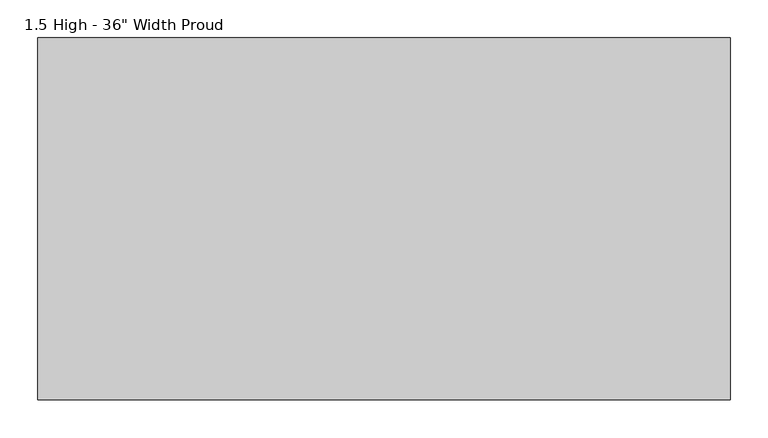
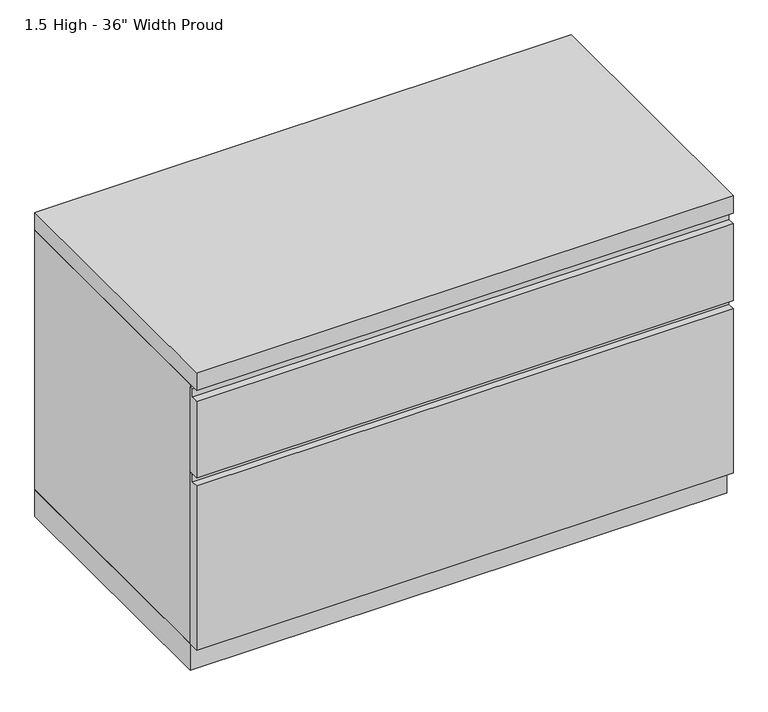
"""IFC4 building model written with IfcOpenShell, lengths in millimetres: furniture geometry."""

from ifc_helpers import new_model, si_unit, frame, origin, origin_with_axes, place, context, project, spatial, polyline, outline, extrude, source, transform, mapped, element, save


def furniture_4366de90(model_context):
    return source(origin(), model_context, "Body", "SweptSolid", [
        extrude(outline(polyline([(-457.2, 357.1875), (-476.25, 357.1875), (-476.25, 495.3), (-463.55, 495.3), (-463.55, 509.5875), (-457.2, 509.5875), (-457.2, 357.1875)])), frame((-455.6125, 0.0, 0.0), z_axis=(1.0, 0.0, 0.0), x_axis=(0.0, 1.0, 0.0)), (0.0, 0.0, 1.0), 911.225),
        extrude(outline(polyline([(-457.2, 47.625), (-476.25, 47.625), (-476.25, 342.9), (-463.55, 342.9), (-463.55, 357.1875), (-457.2, 357.1875), (-457.2, 47.625)])), frame((-455.6125, 0.0, 0.0), z_axis=(1.0, 0.0, 0.0), x_axis=(0.0, 1.0, 0.0)), (0.0, 0.0, 1.0), 911.225),
        extrude(outline(polyline([(455.6125, 0.0), (455.6125, -457.2), (-455.6125, -457.2), (-455.6125, 0.0), (455.6125, 0.0)])), origin_with_axes(), (0.0, 0.0, 1.0), 47.625),
        extrude(outline(polyline([(455.6125, 0.0), (455.6125, -476.25), (-455.6125, -476.25), (-455.6125, 0.0), (455.6125, 0.0)])), frame((0.0, 0.0, 514.35), z_axis=(0.0, 0.0, 1.0), x_axis=(1.0, 0.0, 0.0)), (0.0, 0.0, 1.0), 31.75),
        extrude(outline(polyline([(455.6125, 0.0), (455.6125, -457.2), (436.5625, -457.2), (436.5625, -19.05), (-436.5625, -19.05), (-436.5625, -457.2), (-455.6125, -457.2), (-455.6125, 0.0), (455.6125, 0.0)])), frame((0.0, 0.0, 47.625), z_axis=(0.0, 0.0, 1.0), x_axis=(1.0, 0.0, 0.0)), (0.0, 0.0, 1.0), 466.725),
    ])


if __name__ == "__main__":
    model = new_model("IFC4")
    model_context = context("Model", 3, world=origin())
    ifc_project = project(units=[si_unit("LENGTHUNIT", "METRE", prefix="MILLI")], contexts=[model_context])
    site = spatial("IfcSite", under=ifc_project)
    building = spatial("IfcBuilding", under=site)
    placement = place(None, origin())
    furniture_shape = furniture_4366de90(model_context)
    element("IfcFurniture", 1, ObjectType="Haworth_XSeries-Lateral_Files : 1.5 High - 36\" Width Proud", at=placement, inside=building, context=model_context, shape_type="MappedRepresentation", body=[
        mapped(furniture_shape, transform((0.0, 0.0, 0.0), x_axis=(1.0, 0.0, 0.0), y_axis=(0.0, 1.0, 0.0), z_axis=(0.0, 0.0, 1.0))),
    ])
    save(model, "model.ifc")
